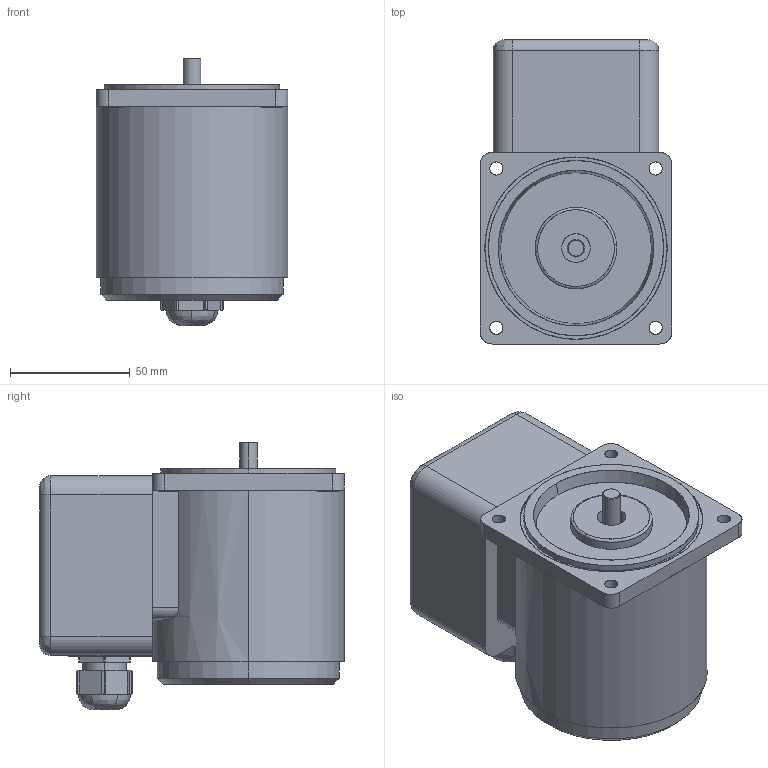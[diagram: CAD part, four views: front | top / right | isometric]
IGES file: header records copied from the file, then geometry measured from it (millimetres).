
Start section: SolidWorks IGES file using analytic representation for surfaces
Bounding box: 80 x 127 x 111.63 mm (x, y, z)
Surface area: 95533.9 mm2 (no closed solid volume)
Topology: 0 solids, 0 shells, 212 faces, 3816 edges, 3816 vertices
Faces by surface type: bspline 117, revolution 95
